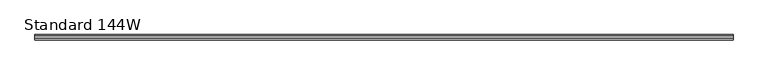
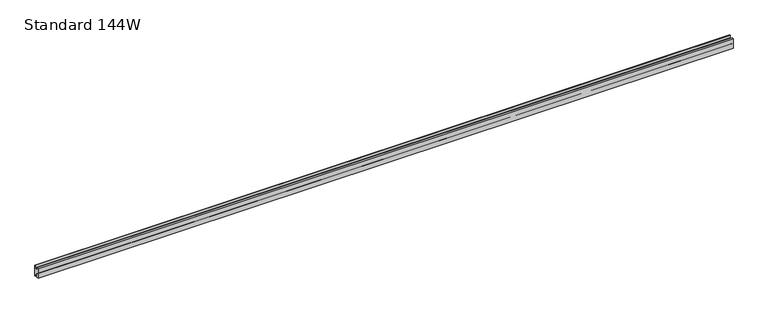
"""IFC4 building model written with IfcOpenShell, lengths in millimetres: furniture geometry, HermanMiller_CoStruc_CO282_StandardRail : Standard 144W."""

import ifcopenshell
import ifcopenshell.guid

model = None  # the IFC model being written
_history = None  # IfcOwnerHistory: only IFC2X3 demands one
_inside = {}  # id of a spatial element -> (the spatial element, [elements in it])
_under = {}  # id of a project, library or spatial element -> (it, [spatial elements below it])
_declared = {}  # id of a project -> (the project, [libraries it declares])
_typed = {}  # id of a type object -> (the type object, [elements of that type])
_made_of = {}  # id of a material, layer set ... -> (it, [elements and type objects made of it])


def new_model(schema):
    """Start an empty IFC model of exactly this schema.

    Asked for "IFC4X3", IfcOpenShell would pick the latest addendum, in which some entities
    have other attributes; the version numbers below select the first issue.
    IFC2X3 requires an IfcOwnerHistory on every rooted entity: one is made here for all.
    """
    global model, _history
    if schema == "IFC4X3":
        model = ifcopenshell.file(schema_version=(4, 3, 0, 0))
    else:
        model = ifcopenshell.file(schema=schema)
    _inside.clear()
    _under.clear()
    _declared.clear()
    _typed.clear()
    _made_of.clear()
    _history = None
    if model.schema == "IFC2X3":
        org = make("IfcOrganization", Name="unknown")
        user = make(
            "IfcPersonAndOrganization",
            ThePerson=make("IfcPerson", FamilyName="unknown"),
            TheOrganization=org,
        )
        app = make(
            "IfcApplication",
            ApplicationDeveloper=org,
            Version="unknown",
            ApplicationFullName="unknown",
            ApplicationIdentifier="unknown",
        )
        _history = make(
            "IfcOwnerHistory",
            OwningUser=user,
            OwningApplication=app,
            ChangeAction="ADDED",
            CreationDate=0,
        )
    return model


def make(cls, **values):
    """One entity of the class cls with the attributes given. An attribute that is None is left unset."""
    return model.create_entity(
        cls, **{name: value for name, value in values.items() if value is not None}
    )


def rooted(cls, **values):
    """An entity with a GlobalId (a new one), such as an element, a storey or a relation."""
    return make(cls, GlobalId=ifcopenshell.guid.new(), OwnerHistory=_history, **values)


def si_unit(unit_type, name, prefix=None):
    """IfcSIUnit, for example si_unit("LENGTHUNIT", "METRE", prefix="MILLI")."""
    return make("IfcSIUnit", UnitType=unit_type, Prefix=prefix, Name=name)


def assignment(units):
    """IfcUnitAssignment: the units of a project."""
    return None if units is None else make("IfcUnitAssignment", Units=units)


def point(xyz):
    """IfcCartesianPoint."""
    return None if xyz is None else make("IfcCartesianPoint", Coordinates=xyz)


def direction(xyz):
    """IfcDirection."""
    return None if xyz is None else make("IfcDirection", DirectionRatios=xyz)


def frame(location, z_axis=None, x_axis=None):
    """IfcAxis2Placement3D, a coordinate frame: its origin and axes. An axis left out is left unset."""
    return make(
        "IfcAxis2Placement3D",
        Location=point(location),
        Axis=direction(z_axis),
        RefDirection=direction(x_axis),
    )


def origin():
    """The frame at (0, 0, 0) with its axes left unset."""
    return frame((0.0, 0.0, 0.0))


def place(relative_to, where):
    """IfcLocalPlacement: puts the frame where relative to a parent placement (None: the world)."""
    return make(
        "IfcLocalPlacement", PlacementRelTo=relative_to, RelativePlacement=where
    )


def context(
    kind, dimensions, precision=None, world=None, true_north=None, identifier=None
):
    """IfcGeometricRepresentationContext, for example the 3D "Model" context."""
    return make(
        "IfcGeometricRepresentationContext",
        ContextIdentifier=identifier,
        ContextType=kind,
        CoordinateSpaceDimension=dimensions,
        Precision=precision,
        WorldCoordinateSystem=world,
        TrueNorth=true_north,
    )


def project(units=None, contexts=None):
    """IfcProject with its units and contexts."""
    return rooted(
        "IfcProject",
        Name="project",
        RepresentationContexts=contexts,
        UnitsInContext=assignment(units),
    )


def spatial(cls, under=None, at=None, **own):
    """A site, building, storey or space (cls), placed at a placement, below another one or the project."""
    s = rooted(cls, ObjectPlacement=at, **own)
    if under is not None:
        _under.setdefault(under.id(), (under, []))[1].append(s)
    return s


def polyline(points):
    """IfcPolyline through the points."""
    return make("IfcPolyline", Points=[point(p) for p in points])


def outline(outer, holes=None, kind="AREA"):
    """IfcArbitraryClosedProfileDef: a profile drawn as a closed curve; with holes, ...WithVoids."""
    if holes is None:
        return make("IfcArbitraryClosedProfileDef", ProfileType=kind, OuterCurve=outer)
    return make(
        "IfcArbitraryProfileDefWithVoids",
        ProfileType=kind,
        OuterCurve=outer,
        InnerCurves=holes,
    )


def extrude(swept, where, along, depth):
    """IfcExtrudedAreaSolid: the profile swept, set in the frame where, extruded along a direction by depth."""
    return make(
        "IfcExtrudedAreaSolid",
        SweptArea=swept,
        Position=where,
        ExtrudedDirection=direction(along),
        Depth=depth,
    )


def shape(context_of_items, identifier, shape_type, items):
    """IfcShapeRepresentation: the items that make up one representation, for example the "Body"."""
    return make(
        "IfcShapeRepresentation",
        ContextOfItems=context_of_items,
        RepresentationIdentifier=identifier,
        RepresentationType=shape_type,
        Items=items,
    )


def source(mapping_origin, context_of_items, identifier, shape_type, items):
    """IfcRepresentationMap: a shape defined once, which mapped items show again and again."""
    return make(
        "IfcRepresentationMap",
        MappingOrigin=mapping_origin,
        MappedRepresentation=shape(context_of_items, identifier, shape_type, items),
    )


def transform(
    local_origin,
    x_axis=None,
    y_axis=None,
    z_axis=None,
    scale=None,
    scale2=None,
    scale3=None,
    uniform=True,
):
    """IfcCartesianTransformationOperator3D, or its non-uniform kind. x_axis, y_axis, z_axis: its Axis1, 2, 3."""
    if uniform:
        return make(
            "IfcCartesianTransformationOperator3D",
            Axis1=direction(x_axis),
            Axis2=direction(y_axis),
            LocalOrigin=point(local_origin),
            Scale=scale,
            Axis3=direction(z_axis),
        )
    return make(
        "IfcCartesianTransformationOperator3DnonUniform",
        Axis1=direction(x_axis),
        Axis2=direction(y_axis),
        LocalOrigin=point(local_origin),
        Scale=scale,
        Axis3=direction(z_axis),
        Scale2=scale2,
        Scale3=scale3,
    )


def mapped(mapping_source, mapping_target):
    """IfcMappedItem: shows the shape of a source again, moved by a transform."""
    return make(
        "IfcMappedItem", MappingSource=mapping_source, MappingTarget=mapping_target
    )


def made_of(thing, what):
    """Note that an element or type object is made of a material, layer set ...; save() writes the relation."""
    if what is not None:
        _made_of.setdefault(what.id(), (what, []))[1].append(thing)
    return thing


def element(
    cls,
    number,
    at=None,
    inside=None,
    cuts=None,
    type_object=None,
    material=None,
    context=None,
    identifier="Body",
    shape_type=None,
    held_by="IfcProductDefinitionShape",
    body=None,
    shapes=None,
    **own,
):
    """One element of the class cls, such as IfcWall. Its Tag is "e" and its number.

    at: its placement. inside: the storey or other place that contains it. cuts: it is an
    opening in that element (IfcRelVoidsElement). A single representation is given by context,
    identifier, shape_type and body (its items); several are given by shapes. held_by: the class
    of the entity that holds the representations. save() writes the other relations.
    """
    e = rooted(cls, Tag="e%d" % number, ObjectPlacement=at, **own)
    if body is not None:
        shapes = [shape(context, identifier, shape_type, body)]
    if shapes is not None:
        e.Representation = make(held_by, Representations=shapes)
    if inside is not None:
        _inside.setdefault(inside.id(), (inside, []))[1].append(e)
    if cuts is not None:
        rooted(
            "IfcRelVoidsElement", RelatingBuildingElement=cuts, RelatedOpeningElement=e
        )
    if type_object is not None:
        _typed.setdefault(type_object.id(), (type_object, []))[1].append(e)
    return made_of(e, material)


def aggregate(whole, parts):
    """IfcRelAggregates: a whole, such as a stair, and the parts it consists of."""
    return rooted("IfcRelAggregates", RelatingObject=whole, RelatedObjects=parts)


def save(model, path):
    """Write the relations noted so far, then the file.

    IfcRelAggregates (storeys below a building ...), IfcRelContainedInSpatialStructure (elements
    in a storey), IfcRelDefinesByType, IfcRelAssociatesMaterial and IfcRelDeclares: one each for
    every whole, place, type object, material and project.
    """
    for whole, parts in _under.values():
        aggregate(whole, parts)
    for where, things in _inside.values():
        rooted(
            "IfcRelContainedInSpatialStructure",
            RelatedElements=things,
            RelatingStructure=where,
        )
    for kind, things in _typed.values():
        rooted("IfcRelDefinesByType", RelatedObjects=things, RelatingType=kind)
    for what, things in _made_of.values():
        rooted("IfcRelAssociatesMaterial", RelatedObjects=things, RelatingMaterial=what)
    for by, libraries in _declared.values():
        rooted("IfcRelDeclares", RelatingContext=by, RelatedDefinitions=libraries)
    model.write(path)


def standard_144w_a9847ba4(model_context):
    return source(origin(), model_context, "Body", "SweptSolid", [
        extrude(outline(polyline([(-19.05, 1825.625), (-19.05, 1816.1), (-3.175, 1816.1), (-3.175, 1828.8), (0.0, 1828.8), (0.0, 1768.475), (-3.175, 1768.475), (-3.175, 1778.0), (-19.05, 1790.8984375), (-19.05, 1771.65), (-28.575, 1771.65), (-28.575, 1825.625), (-19.05, 1825.625)])), frame((-1896.1205525, 0.0, 0.0), z_axis=(1.0, 0.0, 0.0), x_axis=(0.0, 1.0, 0.0)), (0.0, 0.0, 1.0), 3657.6),
    ])


if __name__ == "__main__":
    model = new_model("IFC4")
    model_context = context("Model", 3, world=origin())
    ifc_project = project(units=[si_unit("LENGTHUNIT", "METRE", prefix="MILLI")], contexts=[model_context])
    site = spatial("IfcSite", under=ifc_project)
    building = spatial("IfcBuilding", under=site)
    placement = place(None, origin())
    standard_144w_shape = standard_144w_a9847ba4(model_context)
    element("IfcFurniture", 1, ObjectType="HermanMiller_CoStruc_CO282_StandardRail : Standard 144W", at=placement, inside=building, context=model_context, shape_type="MappedRepresentation", body=[
        mapped(standard_144w_shape, transform((0.0, 0.0, 0.0), x_axis=(1.0, 0.0, 0.0), y_axis=(0.0, 1.0, 0.0), z_axis=(0.0, 0.0, 1.0))),
    ])
    save(model, "model.ifc")
